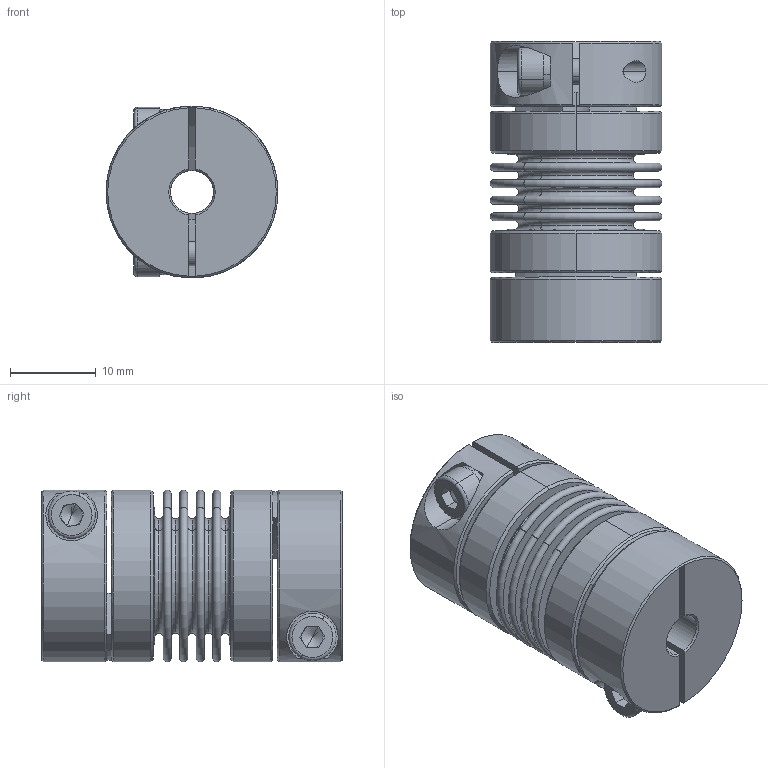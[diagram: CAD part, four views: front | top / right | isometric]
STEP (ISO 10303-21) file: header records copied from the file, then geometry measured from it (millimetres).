
FILE_DESCRIPTION (( 'STEP AP203' ), '1' );
FILE_NAME ('LB-B-D20L34-5-5.STEP', '2021-11-04T01:38:54', ( '' ), ( '' ), 'SwSTEP 2.0', 'SolidWorks 2018', '' );
FILE_SCHEMA (( 'CONFIG_CONTROL_DESIGN' ));
Length unit declared in the file: millimetre
Products named in the file (2): LB-B-D20L34-5-5; 零件4^LB-B-D20L34 波纹管联轴器-组装体
Assembly tree (1 placements, depth 2):
  LB-B-D20L34-5-5
    零件4^LB-B-D20L34 波纹管联轴器-组装体
Bounding box: 20 x 35 x 20 mm (x, y, z)
Volume: 6293.8 mm3; surface area: 9589.3 mm2
Topology: 1 solids, 1 shells, 246 faces, 578 edges, 358 vertices
Faces by surface type: plane 82, torus 68, cylinder 62, cone 34
Entity records: 7554 total; most frequent: CARTESIAN_POINT 1494, DIRECTION 1382, ORIENTED_EDGE 1148, AXIS2_PLACEMENT_3D 606, EDGE_CURVE 574, VERTEX_POINT 358, CIRCLE 356, EDGE_LOOP 288
